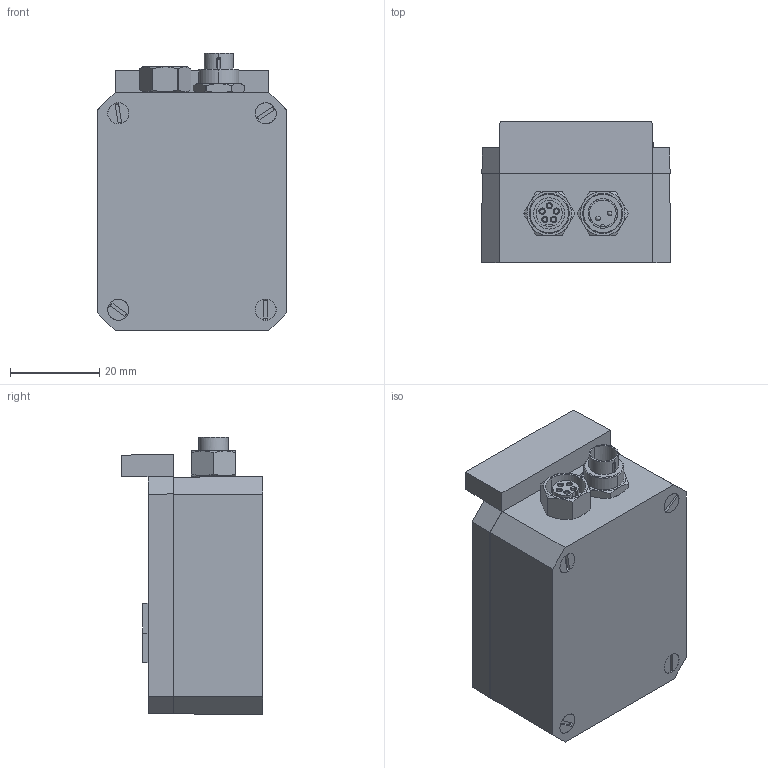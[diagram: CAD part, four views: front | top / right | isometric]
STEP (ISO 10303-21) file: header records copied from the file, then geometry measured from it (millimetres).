
FILE_DESCRIPTION (( 'STEP AP203' ), '1' );
FILE_NAME ('CM1CAN2.STEP', '2010-07-07T17:47:04', ( 'render' ), ( '' ), 'SwSTEP 2.0', 'SolidWorks 2009', '' );
FILE_SCHEMA (( 'CONFIG_CONTROL_DESIGN' ));
Length unit declared in the file: millimetre
Products named in the file (1): CM1CAN2
Bounding box: 42.35 x 31.7 x 62.1 mm (x, y, z)
Surface area: 25063.1 mm2 (no closed solid volume)
Topology: 0 solids, 47 shells, 977 faces, 2929 edges, 1975 vertices
Faces by surface type: plane 712, cylinder 177, cone 81, bspline 5, sphere 2
Entity records: 32582 total; most frequent: CARTESIAN_POINT 6444, DIRECTION 5246, ORIENTED_EDGE 5083, EDGE_CURVE 2921, LINE 2348, VECTOR 2348, VERTEX_POINT 1974, AXIS2_PLACEMENT_3D 1449
